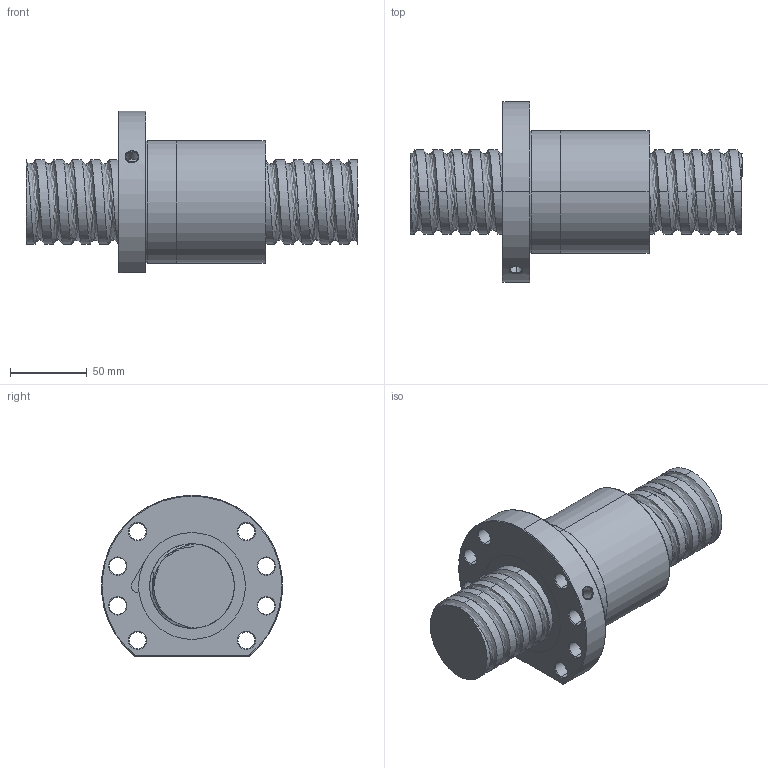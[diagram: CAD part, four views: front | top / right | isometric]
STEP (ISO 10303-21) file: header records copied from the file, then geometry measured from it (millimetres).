
FILE_DESCRIPTION (( 'STEP AP214' ), '1' );
FILE_NAME ('FSDC05512T5-F-B.STEP', '2010-06-25T12:15:03', ( 'XPAUTO' ), ( 'XPAUTO' ), 'SwSTEP 2.0', 'SolidWorks 2007', '' );
FILE_SCHEMA (( 'AUTOMOTIVE_DESIGN' ));
Length unit declared in the file: millimetre
Products named in the file (3): FSDC05512T5-F-B.sldasm-Part-1_預設; FSDC05512T5-F-B; FSDC05512T5-F-B.sldasm-Part-2_預設
Assembly tree (2 placements, depth 2):
  FSDC05512T5-F-B
    FSDC05512T5-F-B.sldasm-Part-1_預設
    FSDC05512T5-F-B.sldasm-Part-2_預設
Bounding box: 216 x 117.69 x 105 mm (x, y, z)
Volume: 810104.1 mm3; surface area: 111119.9 mm2
Topology: 2 solids, 2 shells, 138 faces, 343 edges, 214 vertices
Faces by surface type: cylinder 77, cone 32, plane 19, bspline 5, torus 5
Entity records: 27244 total; most frequent: CARTESIAN_POINT 23951, ORIENTED_EDGE 686, DIRECTION 645, EDGE_CURVE 343, AXIS2_PLACEMENT_3D 262, VERTEX_POINT 214, EDGE_LOOP 163, FACE_OUTER_BOUND 138
